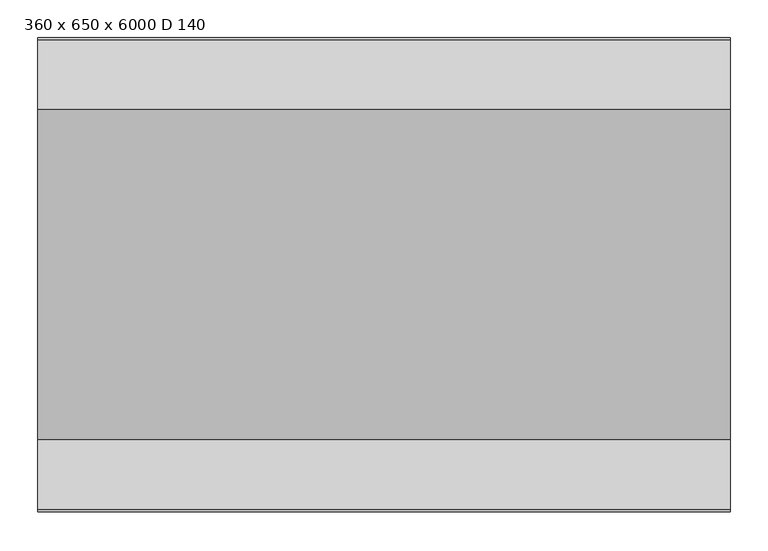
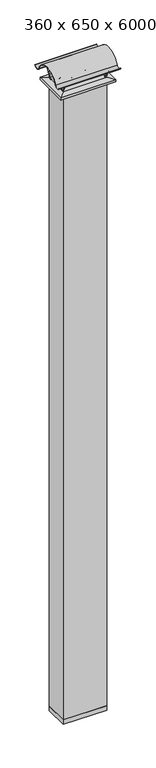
"""IFC4 building model written with IfcOpenShell, lengths in millimetres: proxy geometry, Kamin-03 zweizügig : 360 x 650 x 6000 D 140."""

from ifc_helpers import new_model, si_unit, point, frame, frame_2d, origin, origin_with_axes, place, context, project, spatial, polyline, circle_curve, ellipse_curve, trimmed, segment, composite_curve, outline, extrude, source, transform, mapped, element, save
from ifc_brep_helpers import plane_surface, cylinder_surface, revolved_surface, advanced_brep


def proxy_360_x_650_x_6000_d_140_bfd82147(model_context):
    return source(origin(), model_context, "Body", "SolidModel", [
        advanced_brep(
        [(235.0, 0.0, 10000.0), (115.0, 0.0, 10000.0), (92.5, 0.0, 10000.0), (257.5, 0.0, 10000.0), (235.0, 0.0, 10080.0166991), (115.0, 0.0, 10080.0166991), (257.5, 0.0, 10080.0166991), (92.5, 0.0, 10080.0166991), (257.5, 0.0, 10035.0), (92.5, 0.0, 10035.0), (257.5, 0.0, 10015.0), (92.5, 0.0, 10015.0)],
        [
            (0, 1, circle_curve(frame((175.0, 0.0, 10000.0), z_axis=(0.0, 0.0, 1.0), x_axis=(-1.0, 0.0, 0.0)), 60.0)),
            (1, 2),
            (2, 3, circle_curve(frame((175.0, 0.0, 10000.0), z_axis=(0.0, 0.0, -1.0), x_axis=(-1.0, 0.0, 0.0)), 82.5)),
            (3, 0),
            (1, 0, circle_curve(frame((175.0, 0.0, 10000.0), z_axis=(0.0, 0.0, 1.0), x_axis=(-1.0, 0.0, 0.0)), 60.0)),
            (3, 2, circle_curve(frame((175.0, 0.0, 10000.0), z_axis=(0.0, 0.0, -1.0), x_axis=(-1.0, 0.0, 0.0)), 82.5)),
            (4, 5, circle_curve(frame((175.0, 0.0, 10080.0166991), z_axis=(0.0, 0.0, 1.0), x_axis=(-1.0, 0.0, 0.0)), 60.0)),
            (5, 1),
            (0, 4),
            (5, 4, circle_curve(frame((175.0, 0.0, 10080.0166991), z_axis=(0.0, 0.0, 1.0), x_axis=(-1.0, 0.0, 0.0)), 60.0)),
            (6, 7, circle_curve(frame((175.0, 0.0, 10080.0166991), z_axis=(0.0, 0.0, 1.0), x_axis=(-1.0, 0.0, 0.0)), 82.5)),
            (7, 5),
            (4, 6),
            (7, 6, circle_curve(frame((175.0, 0.0, 10080.0166991), z_axis=(0.0, 0.0, 1.0), x_axis=(-1.0, 0.0, 0.0)), 82.5)),
            (8, 9, circle_curve(frame((175.0, 0.0, 10035.0), z_axis=(0.0, 0.0, 1.0), x_axis=(-1.0, 0.0, 0.0)), 82.5)),
            (9, 7),
            (6, 8),
            (9, 8, circle_curve(frame((175.0, 0.0, 10035.0), z_axis=(0.0, 0.0, 1.0), x_axis=(-1.0, 0.0, 0.0)), 82.5)),
            (10, 11, circle_curve(frame((175.0, 0.0, 10015.0), z_axis=(0.0, 0.0, 1.0), x_axis=(-1.0, 0.0, 0.0)), 82.5)),
            (11, 9, circle_curve(frame((86.1627661, 0.0, 10025.0), z_axis=(0.0, -1.0, 0.0), x_axis=(1.0, 0.0, 0.0)), 11.8389414)),
            (8, 10, circle_curve(frame((263.8372339, 0.0, 10025.0), z_axis=(0.0, -1.0, 0.0), x_axis=(-1.0, 0.0, 0.0)), 11.8389414)),
            (11, 10, circle_curve(frame((175.0, 0.0, 10015.0), z_axis=(0.0, 0.0, 1.0), x_axis=(-1.0, 0.0, 0.0)), 82.5)),
            (2, 11),
            (10, 3),
        ],
        [
            plane_surface(frame((175.0, 0.0, 10000.0), z_axis=(0.0, 0.0, -1.0), x_axis=(-1.0, 0.0, 0.0))),
            revolved_surface(polyline([(115.0, 0.0, 10000.0), (115.0, 0.0, 10080.0166991)]), (175.0, 0.0, 10079.8686059), (0.0, 0.0, -1.0)),
            plane_surface(frame((175.0, 0.0, 10080.0166991), z_axis=(0.0, 0.0, 1.0), x_axis=(-1.0, 0.0, 0.0))),
            cylinder_surface(frame((175.0, 0.0, 10079.8686059), z_axis=(0.0, 0.0, -1.0), x_axis=(-1.0, 0.0, 0.0)), 82.5),
            revolved_surface(trimmed(ellipse_curve(frame((86.1627661, 0.0, 10025.0), z_axis=(0.0, 1.0, 0.0), x_axis=(1.0, 0.0, 0.0)), 11.8389414, 11.8389414), [point((92.5, 0.0, 10035.0))], [point((92.5, 0.0, 10015.0))], True, "CARTESIAN"), (175.0, 0.0, 10079.8686059), (0.0, 0.0, -1.0)),
        ],
        [
            (0, [[1, 2, 3, 4]]),
            (0, [[5, -4, 6, -2]]),
            (1, [[7, 8, -1, 9]]),
            (1, [[10, -9, -5, -8]]),
            (2, [[11, 12, -7, 13]]),
            (2, [[14, -13, -10, -12]]),
            (3, [[15, 16, -11, 17]]),
            (3, [[18, -17, -14, -16]]),
            (4, [[19, 20, -15, 21]]),
            (4, [[22, -21, -18, -20]]),
            (3, [[-3, 23, -19, 24]]),
            (3, [[-6, -24, -22, -23]]),
        ],
    ),
        extrude(outline(composite_curve([segment(trimmed(circle_curve(frame_2d((-264.1509179, 10197.6963544)), 57.2939437), [point((-237.8097366, 10146.8167105))], [point((-255.3706655, 10141.0791913))], False, "CARTESIAN"), True, "CONTINUOUS"), segment(polyline([(-255.3706655, 10141.0791913), (-255.7349938, 10143.4284674)]), True, "CONTINUOUS"), segment(trimmed(circle_curve(frame_2d((-264.1509179, 10197.6963544)), 54.9165853), [point((-255.7349938, 10143.4284674))], [point((-237.0656745, 10149.9237584))], True, "CARTESIAN"), True, "CONTINUOUS"), segment(polyline([(-237.0656745, 10149.9237584), (-168.523352, 10002.3773585), (-135.0, 10002.3773585), (-135.0, 10000.0), (-169.7710839, 10000.0), (-237.8097366, 10146.8167105)]), True, "CONTINUOUS")], self_intersect=False)), frame((-325.0, 0.0, 0.0), z_axis=(1.0, 0.0, 0.0), x_axis=(0.0, 1.0, 0.0)), (0.0, 0.0, 1.0), 12.0),
        extrude(outline(composite_curve([segment(polyline([(237.8097366, 10146.8167105), (169.7710839, 10000.0), (135.0, 10000.0), (135.0, 10002.3773585), (168.523352, 10002.3773585), (237.0656745, 10149.9237584)]), True, "CONTINUOUS"), segment(trimmed(circle_curve(frame_2d((264.1509179, 10197.6963544)), 54.9165852), [point((237.0656745, 10149.9237584))], [point((255.7349938, 10143.4284674))], True, "CARTESIAN"), True, "CONTINUOUS"), segment(polyline([(255.7349938, 10143.4284674), (255.3706655, 10141.0791913)]), True, "CONTINUOUS"), segment(trimmed(circle_curve(frame_2d((264.1509179, 10197.6963544)), 57.2939437), [point((255.3706655, 10141.0791913))], [point((237.8097366, 10146.8167105))], False, "CARTESIAN"), True, "CONTINUOUS")], self_intersect=False)), frame((-325.0, 0.0, 0.0), z_axis=(1.0, 0.0, 0.0), x_axis=(0.0, 1.0, 0.0)), (0.0, 0.0, 1.0), 12.0),
        extrude(outline(composite_curve([segment(trimmed(circle_curve(frame_2d((-264.1509179, 10197.6963544)), 57.2939437), [point((-237.8097366, 10146.8167105))], [point((-255.3706655, 10141.0791913))], False, "CARTESIAN"), True, "CONTINUOUS"), segment(polyline([(-255.3706655, 10141.0791913), (-255.7349938, 10143.4284674)]), True, "CONTINUOUS"), segment(trimmed(circle_curve(frame_2d((-264.1509179, 10197.6963544)), 54.9165853), [point((-255.7349938, 10143.4284674))], [point((-237.0656745, 10149.9237584))], True, "CARTESIAN"), True, "CONTINUOUS"), segment(polyline([(-237.0656745, 10149.9237584), (-168.523352, 10002.3773585), (-135.0, 10002.3773585), (-135.0, 10000.0), (-169.7710839, 10000.0), (-237.8097366, 10146.8167105)]), True, "CONTINUOUS")], self_intersect=False)), frame((313.0, 0.0, 0.0), z_axis=(1.0, 0.0, 0.0), x_axis=(0.0, 1.0, 0.0)), (0.0, 0.0, 1.0), 12.0),
        extrude(outline(composite_curve([segment(polyline([(237.8097366, 10146.8167105), (169.7710839, 10000.0), (135.0, 10000.0), (135.0, 10002.3773585), (168.523352, 10002.3773585), (237.0656745, 10149.9237584)]), True, "CONTINUOUS"), segment(trimmed(circle_curve(frame_2d((264.1509179, 10197.6963544)), 54.9165852), [point((237.0656745, 10149.9237584))], [point((255.7349938, 10143.4284674))], True, "CARTESIAN"), True, "CONTINUOUS"), segment(polyline([(255.7349938, 10143.4284674), (255.3706655, 10141.0791913)]), True, "CONTINUOUS"), segment(trimmed(circle_curve(frame_2d((264.1509179, 10197.6963544)), 57.2939437), [point((255.3706655, 10141.0791913))], [point((237.8097366, 10146.8167105))], False, "CARTESIAN"), True, "CONTINUOUS")], self_intersect=False)), frame((313.0, 0.0, 0.0), z_axis=(1.0, 0.0, 0.0), x_axis=(0.0, 1.0, 0.0)), (0.0, 0.0, 1.0), 12.0),
        extrude(outline(composite_curve([segment(trimmed(circle_curve(frame_2d((264.1509179, 10197.6963544)), 51.3505475), [point((219.8955952, 10171.6512945))], [point((311.6980878, 10178.3018868))], True, "CARTESIAN"), True, "CONTINUOUS"), segment(polyline([(311.6980878, 10178.3018868), (315.0, 10176.9550384)]), True, "CONTINUOUS"), segment(trimmed(circle_curve(frame_2d((264.1509179, 10197.6963544)), 54.9165853), [point((315.0, 10176.9550384))], [point((216.5517484, 10170.3074808))], False, "CARTESIAN"), True, "CONTINUOUS"), segment(trimmed(circle_curve(frame_2d((0.0, 10088.6024742)), 231.4527335), [point((216.5517484, 10170.3074808))], [point((-216.5517484, 10170.3074808))], True, "CARTESIAN"), True, "CONTINUOUS"), segment(trimmed(circle_curve(frame_2d((-264.1509179, 10197.6963544)), 54.9165853), [point((-216.5517484, 10170.3074808))], [point((-315.0, 10176.9550384))], False, "CARTESIAN"), True, "CONTINUOUS"), segment(polyline([(-315.0, 10176.9550384), (-311.6980878, 10178.3018868)]), True, "CONTINUOUS"), segment(trimmed(circle_curve(frame_2d((-264.1509179, 10197.6963544)), 51.3505475), [point((-311.6980878, 10178.3018868))], [point((-219.8955952, 10171.6512945))], True, "CARTESIAN"), True, "CONTINUOUS"), segment(trimmed(circle_curve(frame_2d((0.0, 10088.6024742)), 235.0556942), [point((-219.8955952, 10171.6512945))], [point((219.8955952, 10171.6512945))], False, "CARTESIAN"), True, "CONTINUOUS")], self_intersect=False)), frame((-460.0, 0.0, 0.0), z_axis=(1.0, 0.0, 0.0), x_axis=(0.0, 1.0, 0.0)), (0.0, 0.0, 1.0), 920.0),
        advanced_brep(
        [(325.0, 180.0, 10000.0), (-325.0, 180.0, 10000.0), (-325.0, -180.0, 10000.0), (325.0, -180.0, 10000.0), (-95.0, 0.0, 10000.0), (-255.0, 0.0, 10000.0), (235.0, 0.0, 10000.0), (115.0, 0.0, 10000.0), (410.0, 265.0, 9988.0), (-410.0, 265.0, 9988.0), (-410.0, -265.0, 9988.0), (410.0, -265.0, 9988.0), (-95.0, 0.0, 9950.0), (-255.0, 0.0, 9950.0), (410.0, 265.0, 9950.0), (410.0, -265.0, 9950.0), (-410.0, -265.0, 9950.0), (-410.0, 265.0, 9950.0), (115.0, 0.0, 9950.0), (235.0, 0.0, 9950.0)],
        [
            (0, 1),
            (1, 2),
            (2, 3),
            (3, 0),
            (4, 5, circle_curve(frame((-175.0, 0.0, 10000.0), z_axis=(0.0, 0.0, -1.0), x_axis=(1.0, 0.0, 0.0)), 80.0)),
            (5, 4, circle_curve(frame((-175.0, 0.0, 10000.0), z_axis=(0.0, 0.0, -1.0), x_axis=(1.0, 0.0, 0.0)), 80.0)),
            (6, 7, circle_curve(frame((175.0, 0.0, 10000.0), z_axis=(0.0, 0.0, -1.0), x_axis=(1.0, 0.0, 0.0)), 60.0)),
            (7, 6, circle_curve(frame((175.0, 0.0, 10000.0), z_axis=(0.0, 0.0, -1.0), x_axis=(1.0, 0.0, 0.0)), 60.0)),
            (0, 8),
            (8, 9),
            (9, 1),
            (9, 10),
            (10, 2),
            (10, 11),
            (11, 3),
            (11, 8),
            (4, 12),
            (12, 13, circle_curve(frame((-175.0, 0.0, 9950.0), z_axis=(0.0, 0.0, -1.0), x_axis=(1.0, 0.0, 0.0)), 80.0)),
            (13, 5),
            (13, 12, circle_curve(frame((-175.0, 0.0, 9950.0), z_axis=(0.0, 0.0, -1.0), x_axis=(1.0, 0.0, 0.0)), 80.0)),
            (14, 15),
            (15, 16),
            (16, 17),
            (17, 14),
            (18, 19, circle_curve(frame((175.0, 0.0, 9950.0), z_axis=(0.0, 0.0, 1.0), x_axis=(1.0, 0.0, 0.0)), 60.0)),
            (19, 18, circle_curve(frame((175.0, 0.0, 9950.0), z_axis=(0.0, 0.0, 1.0), x_axis=(1.0, 0.0, 0.0)), 60.0)),
            (17, 9),
            (8, 14),
            (16, 10),
            (15, 11),
            (6, 19),
            (18, 7),
        ],
        [
            plane_surface(frame((0.0, 0.0, 10000.0), z_axis=(0.0, 0.0, 1.0), x_axis=(-1.0, 0.0, 0.0))),
            plane_surface(frame((0.0, 265.0, 9988.0), z_axis=(0.0, 0.13979027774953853, 0.9901811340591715), x_axis=(-1.0, 0.0, 0.0))),
            plane_surface(frame((-410.0, 0.0, 9988.0), z_axis=(-0.13979027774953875, 0.0, 0.9901811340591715), x_axis=(0.0, -1.0, 0.0))),
            plane_surface(frame((0.0, -265.0, 9988.0), z_axis=(0.0, -0.13979027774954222, 0.990181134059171), x_axis=(1.0, 0.0, 0.0))),
            plane_surface(frame((410.0, 0.0, 9988.0), z_axis=(0.13979027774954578, 0.0, 0.9901811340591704), x_axis=(0.0, 1.0, 0.0))),
            revolved_surface(polyline([(-95.0, 0.0, 10000.0), (-95.0, 0.0, 9950.0)]), (-175.0, 0.0, 9950.0), (0.0, 0.0, 1.0)),
            plane_surface(frame((-410.0, 265.0, 9950.0), z_axis=(0.0, 0.0, -1.0), x_axis=(1.0, 0.0, 0.0))),
            plane_surface(frame((410.0, 265.0, 9988.0), z_axis=(0.0, 1.0, 0.0), x_axis=(0.0, 0.0, -1.0))),
            plane_surface(frame((-410.0, 265.0, 9988.0), z_axis=(-1.0, 0.0, 0.0), x_axis=(0.0, 0.0, -1.0))),
            plane_surface(frame((-410.0, -265.0, 9988.0), z_axis=(0.0, -1.0, 0.0), x_axis=(0.0, 0.0, -1.0))),
            plane_surface(frame((410.0, -265.0, 9988.0), z_axis=(1.0, 0.0, 0.0), x_axis=(0.0, 0.0, -1.0))),
            revolved_surface(polyline([(235.0, 0.0, 10000.0), (235.0, 0.0, 9950.0)]), (175.0, 0.0, 9950.0), (0.0, 0.0, 1.0)),
        ],
        [
            (0, [[1, 2, 3, 4], [5, 6], [7, 8]]),
            (1, [[-1, 9, 10, 11]]),
            (2, [[-2, -11, 12, 13]]),
            (3, [[-3, -13, 14, 15]]),
            (4, [[-4, -15, 16, -9]]),
            (5, [[17, 18, 19, -5]]),
            (5, [[-17, -6, -19, 20]]),
            (6, [[21, 22, 23, 24], [-18, -20], [25, 26]]),
            (7, [[-24, 27, -10, 28]]),
            (8, [[-23, 29, -12, -27]]),
            (9, [[-22, 30, -14, -29]]),
            (10, [[-21, -28, -16, -30]]),
            (11, [[31, -25, 32, -7]]),
            (11, [[-31, -8, -32, -26]]),
        ],
    ),
        advanced_brep(
        [(-95.0, 0.0, 10000.0), (-255.0, 0.0, 10000.0), (-277.5, 0.0, 10000.0), (-72.5, 0.0, 10000.0), (-95.0, 0.0, 10080.0166991), (-255.0, 0.0, 10080.0166991), (-72.5, 0.0, 10080.0166991), (-277.5, 0.0, 10080.0166991), (-72.5, 0.0, 10035.0), (-277.5, 0.0, 10035.0), (-72.5, 0.0, 10015.0), (-277.5, 0.0, 10015.0)],
        [
            (0, 1, circle_curve(frame((-175.0, 0.0, 10000.0), z_axis=(0.0, 0.0, 1.0), x_axis=(-1.0, 0.0, 0.0)), 80.0)),
            (1, 2),
            (2, 3, circle_curve(frame((-175.0, 0.0, 10000.0), z_axis=(0.0, 0.0, -1.0), x_axis=(-1.0, 0.0, 0.0)), 102.5)),
            (3, 0),
            (1, 0, circle_curve(frame((-175.0, 0.0, 10000.0), z_axis=(0.0, 0.0, 1.0), x_axis=(-1.0, 0.0, 0.0)), 80.0)),
            (3, 2, circle_curve(frame((-175.0, 0.0, 10000.0), z_axis=(0.0, 0.0, -1.0), x_axis=(-1.0, 0.0, 0.0)), 102.5)),
            (4, 5, circle_curve(frame((-175.0, 0.0, 10080.0166991), z_axis=(0.0, 0.0, 1.0), x_axis=(-1.0, 0.0, 0.0)), 80.0)),
            (5, 1),
            (0, 4),
            (5, 4, circle_curve(frame((-175.0, 0.0, 10080.0166991), z_axis=(0.0, 0.0, 1.0), x_axis=(-1.0, 0.0, 0.0)), 80.0)),
            (6, 7, circle_curve(frame((-175.0, 0.0, 10080.0166991), z_axis=(0.0, 0.0, 1.0), x_axis=(-1.0, 0.0, 0.0)), 102.5)),
            (7, 5),
            (4, 6),
            (7, 6, circle_curve(frame((-175.0, 0.0, 10080.0166991), z_axis=(0.0, 0.0, 1.0), x_axis=(-1.0, 0.0, 0.0)), 102.5)),
            (8, 9, circle_curve(frame((-175.0, 0.0, 10035.0), z_axis=(0.0, 0.0, 1.0), x_axis=(-1.0, 0.0, 0.0)), 102.5)),
            (9, 7),
            (6, 8),
            (9, 8, circle_curve(frame((-175.0, 0.0, 10035.0), z_axis=(0.0, 0.0, 1.0), x_axis=(-1.0, 0.0, 0.0)), 102.5)),
            (10, 11, circle_curve(frame((-175.0, 0.0, 10015.0), z_axis=(0.0, 0.0, 1.0), x_axis=(-1.0, 0.0, 0.0)), 102.5)),
            (11, 9, circle_curve(frame((-283.8372339, 0.0, 10025.0), z_axis=(0.0, -1.0, 0.0), x_axis=(1.0, 0.0, 0.0)), 11.8389414)),
            (8, 10, circle_curve(frame((-66.1627661, 0.0, 10025.0), z_axis=(0.0, -1.0, 0.0), x_axis=(-1.0, 0.0, 0.0)), 11.8389414)),
            (11, 10, circle_curve(frame((-175.0, 0.0, 10015.0), z_axis=(0.0, 0.0, 1.0), x_axis=(-1.0, 0.0, 0.0)), 102.5)),
            (2, 11),
            (10, 3),
        ],
        [
            plane_surface(frame((-175.0, 0.0, 10000.0), z_axis=(0.0, 0.0, -1.0), x_axis=(-1.0, 0.0, 0.0))),
            revolved_surface(polyline([(-255.0, 0.0, 10000.0), (-255.0, 0.0, 10080.0166991)]), (-175.0, 0.0, 10079.8686059), (0.0, 0.0, -1.0)),
            plane_surface(frame((-175.0, 0.0, 10080.0166991), z_axis=(0.0, 0.0, 1.0), x_axis=(-1.0, 0.0, 0.0))),
            cylinder_surface(frame((-175.0, 0.0, 10079.8686059), z_axis=(0.0, 0.0, -1.0), x_axis=(-1.0, 0.0, 0.0)), 102.5),
            revolved_surface(trimmed(ellipse_curve(frame((-283.8372339, 0.0, 10025.0), z_axis=(0.0, 1.0, 0.0), x_axis=(1.0, 0.0, 0.0)), 11.8389414, 11.8389414), [point((-277.5, 0.0, 10035.0))], [point((-277.5, 0.0, 10015.0))], True, "CARTESIAN"), (-175.0, 0.0, 10079.8686059), (0.0, 0.0, -1.0)),
        ],
        [
            (0, [[1, 2, 3, 4]]),
            (0, [[5, -4, 6, -2]]),
            (1, [[7, 8, -1, 9]]),
            (1, [[10, -9, -5, -8]]),
            (2, [[11, 12, -7, 13]]),
            (2, [[14, -13, -10, -12]]),
            (3, [[15, 16, -11, 17]]),
            (3, [[18, -17, -14, -16]]),
            (4, [[19, 20, -15, 21]]),
            (4, [[22, -21, -18, -20]]),
            (3, [[-3, 23, -19, 24]]),
            (3, [[-6, -24, -22, -23]]),
        ],
    ),
        extrude(outline(polyline([(325.0, 180.0), (325.0, -180.0), (-325.0, -180.0), (-325.0, 180.0), (325.0, 180.0)])), origin_with_axes(), (0.0, 0.0, 1.0), 70.0),
        extrude(outline(polyline([(-325.0, -180.0), (-325.0, 180.0), (325.0, 180.0), (325.0, -180.0), (-325.0, -180.0)]), holes=[composite_curve([segment(trimmed(circle_curve(frame_2d((-175.0, 0.0)), 80.0), [point((-255.0, 0.0))], [point((-95.0, 0.0))], True, "CARTESIAN"), True, "CONTINUOUS"), segment(trimmed(circle_curve(frame_2d((-175.0, 0.0)), 80.0), [point((-95.0, 0.0))], [point((-255.0, 0.0))], True, "CARTESIAN"), True, "CONTINUOUS")], self_intersect=False), composite_curve([segment(trimmed(circle_curve(frame_2d((175.0, 0.0)), 60.0), [point((115.0, 0.0))], [point((235.0, 0.0))], True, "CARTESIAN"), True, "CONTINUOUS"), segment(trimmed(circle_curve(frame_2d((175.0, 0.0)), 60.0), [point((235.0, 0.0))], [point((115.0, 0.0))], True, "CARTESIAN"), True, "CONTINUOUS")], self_intersect=False)]), frame((0.0, 0.0, 70.0), z_axis=(0.0, 0.0, 1.0), x_axis=(1.0, 0.0, 0.0)), (0.0, 0.0, 1.0), 9880.0),
    ])


if __name__ == "__main__":
    model = new_model("IFC4")
    model_context = context("Model", 3, world=origin())
    ifc_project = project(units=[si_unit("LENGTHUNIT", "METRE", prefix="MILLI")], contexts=[model_context])
    site = spatial("IfcSite", under=ifc_project)
    building = spatial("IfcBuilding", under=site)
    placement = place(None, origin())
    proxy_360_x_650_x_6000_d_140_shape = proxy_360_x_650_x_6000_d_140_bfd82147(model_context)
    element("IfcBuildingElementProxy", 1, Name="Kamin-03 zweizügig : 360 x 650 x 6000 D 140", ObjectType="Kamin-03 zweizügig : 360 x 650 x 6000 D 140", at=placement, inside=building, context=model_context, shape_type="MappedRepresentation", body=[
        mapped(proxy_360_x_650_x_6000_d_140_shape, transform((0.0, 0.0, 0.0), x_axis=(1.0, 0.0, 0.0), y_axis=(0.0, 1.0, 0.0), z_axis=(0.0, 0.0, 1.0))),
    ])
    save(model, "model.ifc")
